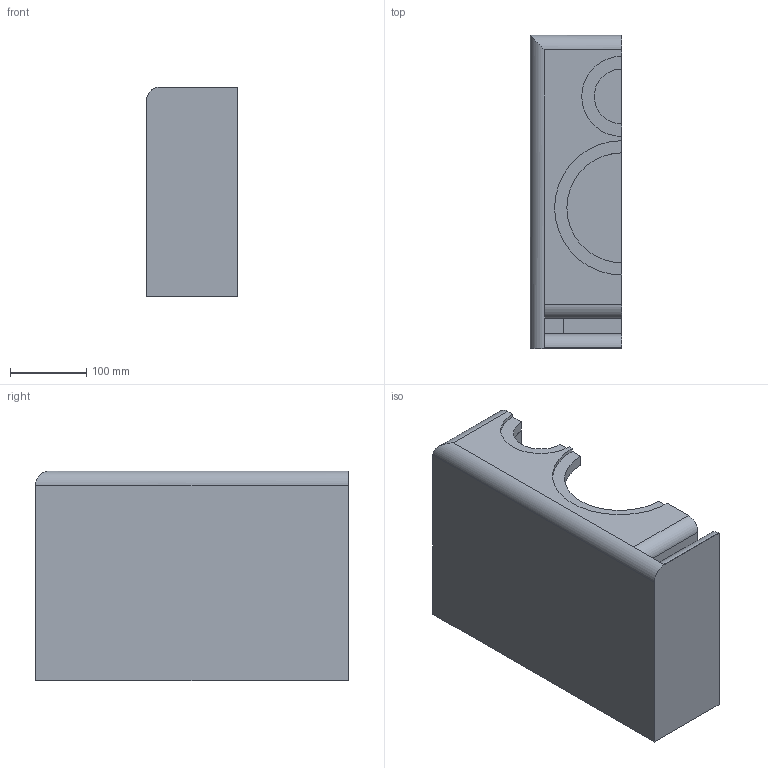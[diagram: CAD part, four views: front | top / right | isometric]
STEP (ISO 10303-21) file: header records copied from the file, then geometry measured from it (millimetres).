
FILE_DESCRIPTION (( 'STEP AP203' ), '1' );
FILE_NAME ('6510 assorbente.STEP', '2024-08-24T14:18:07', ( '' ), ( '' ), 'SwSTEP 2.0', 'SolidWorks 2020', '' );
FILE_SCHEMA (( 'CONFIG_CONTROL_DESIGN' ));
Length unit declared in the file: millimetre
Products named in the file (1): 6510 assorbente
Bounding box: 120 x 410 x 275 mm (x, y, z)
Volume: 7990644.6 mm3; surface area: 865189.3 mm2
Topology: 4 solids, 4 shells, 49 faces, 120 edges, 79 vertices
Faces by surface type: plane 41, cylinder 8
Entity records: 1495 total; most frequent: CARTESIAN_POINT 252, ORIENTED_EDGE 240, DIRECTION 233, EDGE_CURVE 120, LINE 105, VECTOR 105, VERTEX_POINT 79, AXIS2_PLACEMENT_3D 64
